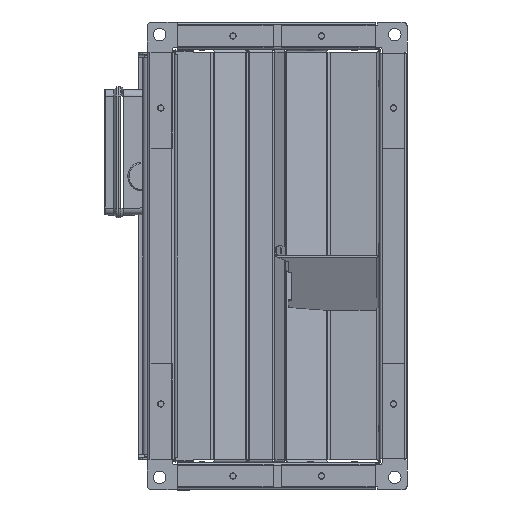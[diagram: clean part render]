
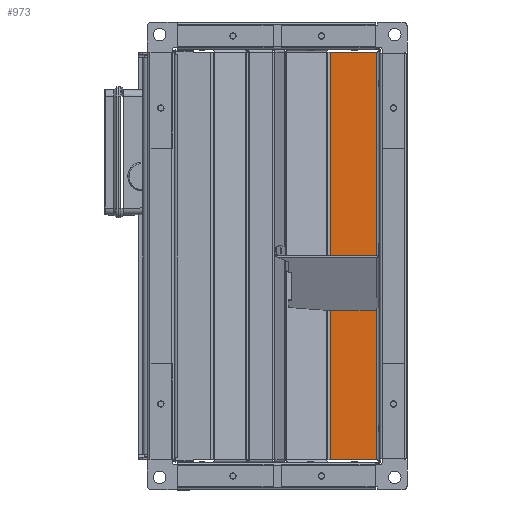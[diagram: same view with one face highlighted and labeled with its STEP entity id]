
A CAD part, left-side view. The second image highlights one B-rep face of the part: STEP entity #973.
In plain terms, the highlighted planar face has unit normal (-1, 0, 0).
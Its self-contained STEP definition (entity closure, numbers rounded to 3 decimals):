
#973 = ADVANCED_FACE ( 'NONE', ( #17383, #15103 ), #1658, .F. ) ;
#1332 = EDGE_LOOP ( 'NONE', ( #19938, #11639 ) ) ;
#1484 = VERTEX_POINT ( 'NONE', #5414 ) ;
#1556 = CIRCLE ( 'NONE', #33269, 2.1 ) ;
#1658 = PLANE ( 'NONE',  #21210 ) ;
#1942 = VECTOR ( 'NONE', #31859, 1000. ) ;
#2098 = CARTESIAN_POINT ( 'NONE',  ( 157.6, 2.8, 147.693 ) ) ;
#2414 = CARTESIAN_POINT ( 'NONE',  ( 157.6, 2.307, -147.2 ) ) ;
#2639 = VECTOR ( 'NONE', #21811, 1000. ) ;
#4252 = ORIENTED_EDGE ( 'NONE', *, *, #19163, .F. ) ;
#5260 = CARTESIAN_POINT ( 'NONE',  ( 157.6, 36.773, 147.2 ) ) ;
#5351 = DIRECTION ( 'NONE',  ( 0., 1., 0. ) ) ;
#5414 = CARTESIAN_POINT ( 'NONE',  ( 157.6, 36.436, -147.2 ) ) ;
#6579 = VERTEX_POINT ( 'NONE', #9411 ) ;
#6714 = DIRECTION ( 'NONE',  ( 0., 0., -1. ) ) ;
#7706 = CIRCLE ( 'NONE', #30552, 2.1 ) ;
#8831 = EDGE_CURVE ( 'NONE', #1484, #6579, #32459, .T. ) ;
#9411 = CARTESIAN_POINT ( 'NONE',  ( 157.6, 36.436, 147.2 ) ) ;
#10432 = LINE ( 'NONE', #2098, #14214 ) ;
#11639 = ORIENTED_EDGE ( 'NONE', *, *, #14703, .F. ) ;
#11691 = CARTESIAN_POINT ( 'NONE',  ( 157.6, 19.347, -33.494 ) ) ;
#11907 = EDGE_CURVE ( 'NONE', #32916, #31227, #1556, .T. ) ;
#14214 = VECTOR ( 'NONE', #17813, 1000. ) ;
#14703 = EDGE_CURVE ( 'NONE', #31227, #32916, #7706, .T. ) ;
#14918 = DIRECTION ( 'NONE',  ( 1., 0., 0. ) ) ;
#15043 = VERTEX_POINT ( 'NONE', #27389 ) ;
#15103 = FACE_OUTER_BOUND ( 'NONE', #27534, .T. ) ;
#17309 = DIRECTION ( 'NONE',  ( -1., 0., 0. ) ) ;
#17383 = FACE_BOUND ( 'NONE', #1332, .T. ) ;
#17744 = VERTEX_POINT ( 'NONE', #20189 ) ;
#17813 = DIRECTION ( 'NONE',  ( 0., 0., -1. ) ) ;
#18783 = CARTESIAN_POINT ( 'NONE',  ( 157.6, 19.347, -33.494 ) ) ;
#19163 = EDGE_CURVE ( 'NONE', #17744, #1484, #28758, .T. ) ;
#19423 = DIRECTION ( 'NONE',  ( 0., 0., 1. ) ) ;
#19938 = ORIENTED_EDGE ( 'NONE', *, *, #11907, .F. ) ;
#20189 = CARTESIAN_POINT ( 'NONE',  ( 157.6, 2.8, -147.2 ) ) ;
#21210 = AXIS2_PLACEMENT_3D ( 'NONE', #34055, #14918, #6714 ) ;
#21811 = DIRECTION ( 'NONE',  ( 0., -1., 0. ) ) ;
#22194 = ORIENTED_EDGE ( 'NONE', *, *, #8831, .F. ) ;
#23304 = ORIENTED_EDGE ( 'NONE', *, *, #28366, .F. ) ;
#24657 = CARTESIAN_POINT ( 'NONE',  ( 157.6, 36.436, -149.2 ) ) ;
#24983 = EDGE_CURVE ( 'NONE', #6579, #15043, #29322, .T. ) ;
#25987 = CARTESIAN_POINT ( 'NONE',  ( 157.6, 17.247, -33.494 ) ) ;
#26625 = CARTESIAN_POINT ( 'NONE',  ( 157.6, 21.447, -33.494 ) ) ;
#27389 = CARTESIAN_POINT ( 'NONE',  ( 157.6, 2.8, 147.2 ) ) ;
#27534 = EDGE_LOOP ( 'NONE', ( #23304, #28222, #22194, #4252 ) ) ;
#28222 = ORIENTED_EDGE ( 'NONE', *, *, #24983, .F. ) ;
#28366 = EDGE_CURVE ( 'NONE', #15043, #17744, #10432, .T. ) ;
#28758 = LINE ( 'NONE', #2414, #1942 ) ;
#29243 = DIRECTION ( 'NONE',  ( -1., 0., 0. ) ) ;
#29322 = LINE ( 'NONE', #5260, #2639 ) ;
#30552 = AXIS2_PLACEMENT_3D ( 'NONE', #11691, #17309, #32430 ) ;
#31227 = VERTEX_POINT ( 'NONE', #25987 ) ;
#31378 = VECTOR ( 'NONE', #19423, 1000. ) ;
#31859 = DIRECTION ( 'NONE',  ( 0., 1., 0. ) ) ;
#32430 = DIRECTION ( 'NONE',  ( 0., 1., 0. ) ) ;
#32459 = LINE ( 'NONE', #24657, #31378 ) ;
#32916 = VERTEX_POINT ( 'NONE', #26625 ) ;
#33269 = AXIS2_PLACEMENT_3D ( 'NONE', #18783, #29243, #5351 ) ;
#34055 = CARTESIAN_POINT ( 'NONE',  ( 157.6, 0.8, -149.2 ) ) ;
